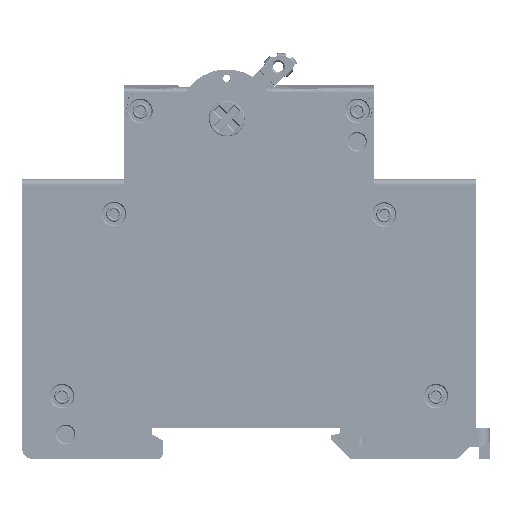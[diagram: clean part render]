
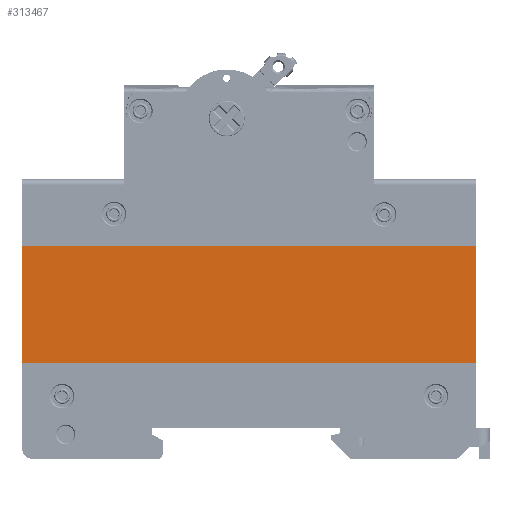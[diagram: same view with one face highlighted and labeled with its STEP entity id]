
A CAD part, left-side view. The second image highlights one B-rep face of the part: STEP entity #313467.
In plain terms, the highlighted planar face has unit normal (-1, 0, 0) as drawn and (0, 0, 1) by its records, which use the part's own axes.
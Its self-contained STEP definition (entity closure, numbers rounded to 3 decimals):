
#3833 = LINE ( 'NONE', #275393, #237410 ) ;
#9096 = CARTESIAN_POINT ( 'NONE',  ( -52.307, -24.507, 8.416 ) ) ;
#30301 = EDGE_CURVE ( 'NONE', #83298, #123169, #156085, .T. ) ;
#33042 = EDGE_CURVE ( 'NONE', #103489, #83298, #3833, .T. ) ;
#35458 = DIRECTION ( 'NONE',  ( -1., 0., 0. ) ) ;
#78475 = LINE ( 'NONE', #152813, #293804 ) ;
#83298 = VERTEX_POINT ( 'NONE', #165998 ) ;
#84703 = VECTOR ( 'NONE', #136507, 1000. ) ;
#86021 = VERTEX_POINT ( 'NONE', #211512 ) ;
#88730 = ORIENTED_EDGE ( 'NONE', *, *, #162464, .F. ) ;
#100729 = DIRECTION ( 'NONE',  ( -1., 0., 0. ) ) ;
#103489 = VERTEX_POINT ( 'NONE', #104810 ) ;
#104810 = CARTESIAN_POINT ( 'NONE',  ( 29.193, -24.507, 8.416 ) ) ;
#113872 = LINE ( 'NONE', #232009, #84703 ) ;
#121791 = VECTOR ( 'NONE', #151353, 1000. ) ;
#123169 = VERTEX_POINT ( 'NONE', #124478 ) ;
#124478 = CARTESIAN_POINT ( 'NONE',  ( -52.307, -3.507, 8.416 ) ) ;
#130378 = AXIS2_PLACEMENT_3D ( 'NONE', #210090, #237483, #35458 ) ;
#136507 = DIRECTION ( 'NONE',  ( 1., 0., 0. ) ) ;
#151353 = DIRECTION ( 'NONE',  ( 0., 1., 0. ) ) ;
#152813 = CARTESIAN_POINT ( 'NONE',  ( 29.193, -3.507, 8.416 ) ) ;
#156085 = LINE ( 'NONE', #9096, #121791 ) ;
#159536 = EDGE_CURVE ( 'NONE', #86021, #103489, #78475, .T. ) ;
#162464 = EDGE_CURVE ( 'NONE', #123169, #86021, #113872, .T. ) ;
#163122 = PLANE ( 'NONE',  #130378 ) ;
#165998 = CARTESIAN_POINT ( 'NONE',  ( -52.307, -24.507, 8.416 ) ) ;
#186159 = ORIENTED_EDGE ( 'NONE', *, *, #33042, .F. ) ;
#210090 = CARTESIAN_POINT ( 'NONE',  ( -15.557, 19.418, 8.416 ) ) ;
#211512 = CARTESIAN_POINT ( 'NONE',  ( 29.193, -3.507, 8.416 ) ) ;
#232009 = CARTESIAN_POINT ( 'NONE',  ( -52.307, -3.507, 8.416 ) ) ;
#237410 = VECTOR ( 'NONE', #100729, 1000. ) ;
#237483 = DIRECTION ( 'NONE',  ( 0., 0., -1. ) ) ;
#256180 = ORIENTED_EDGE ( 'NONE', *, *, #159536, .F. ) ;
#261707 = ORIENTED_EDGE ( 'NONE', *, *, #30301, .F. ) ;
#275393 = CARTESIAN_POINT ( 'NONE',  ( 29.193, -24.507, 8.416 ) ) ;
#284442 = FACE_OUTER_BOUND ( 'NONE', #311998, .T. ) ;
#293804 = VECTOR ( 'NONE', #300003, 1000. ) ;
#300003 = DIRECTION ( 'NONE',  ( 0., -1., 0. ) ) ;
#311998 = EDGE_LOOP ( 'NONE', ( #88730, #261707, #186159, #256180 ) ) ;
#313467 = ADVANCED_FACE ( 'NONE', ( #284442 ), #163122, .F. ) ;
